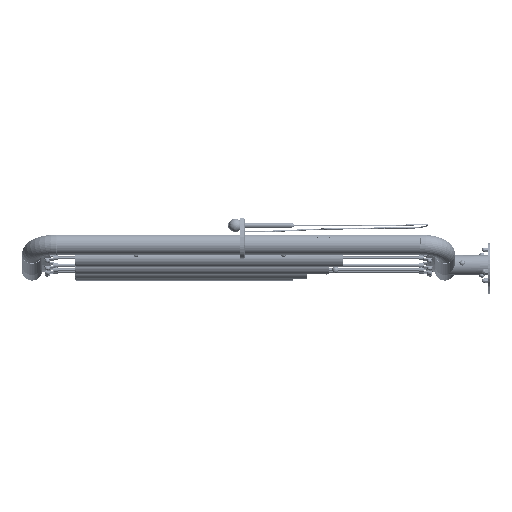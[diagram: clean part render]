
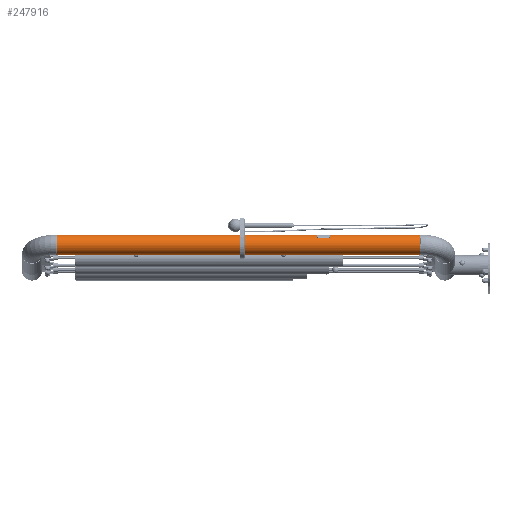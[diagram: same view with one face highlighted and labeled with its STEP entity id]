
A CAD part, left-side view. The second image highlights one B-rep face of the part: STEP entity #247916.
In plain terms, the highlighted cylindrical face has radius 38.05 mm (diameter 76.1 mm), a partial arc.
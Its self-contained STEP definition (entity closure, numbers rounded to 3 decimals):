
#6074 = CARTESIAN_POINT ( 'NONE',  ( -401.475, 1641., -666.129 ) ) ;
#13487 = VERTEX_POINT ( 'NONE', #44682 ) ;
#26786 = CIRCLE ( 'NONE', #133046, 38.05 ) ;
#32812 = CARTESIAN_POINT ( 'NONE',  ( -401.475, 1641., -704.179 ) ) ;
#44323 = CARTESIAN_POINT ( 'NONE',  ( -401.475, 266., -742.229 ) ) ;
#44682 = CARTESIAN_POINT ( 'NONE',  ( -401.475, 1641., -742.229 ) ) ;
#48342 = CIRCLE ( 'NONE', #320154, 38.05 ) ;
#68284 = VERTEX_POINT ( 'NONE', #247414 ) ;
#69632 = CYLINDRICAL_SURFACE ( 'NONE', #191658, 38.05 ) ;
#70765 = ORIENTED_EDGE ( 'NONE', *, *, #79698, .F. ) ;
#72383 = LINE ( 'NONE', #6074, #96653 ) ;
#79698 = EDGE_CURVE ( 'NONE', #13487, #68284, #48342, .T. ) ;
#81117 = ORIENTED_EDGE ( 'NONE', *, *, #263933, .T. ) ;
#86903 = EDGE_LOOP ( 'NONE', ( #128656, #70765, #81117, #168667 ) ) ;
#88840 = DIRECTION ( 'NONE',  ( 0., 1., 0. ) ) ;
#93436 = CARTESIAN_POINT ( 'NONE',  ( -401.475, 1641., -742.229 ) ) ;
#96653 = VECTOR ( 'NONE', #186294, 1000. ) ;
#122866 = DIRECTION ( 'NONE',  ( 0., 1., 0. ) ) ;
#128656 = ORIENTED_EDGE ( 'NONE', *, *, #221059, .F. ) ;
#133046 = AXIS2_PLACEMENT_3D ( 'NONE', #173530, #122866, #303227 ) ;
#146164 = FACE_OUTER_BOUND ( 'NONE', #86903, .T. ) ;
#168667 = ORIENTED_EDGE ( 'NONE', *, *, #281925, .T. ) ;
#173530 = CARTESIAN_POINT ( 'NONE',  ( -401.475, 266., -704.179 ) ) ;
#186294 = DIRECTION ( 'NONE',  ( 0., -1., 0. ) ) ;
#191658 = AXIS2_PLACEMENT_3D ( 'NONE', #32812, #208632, #210857 ) ;
#198117 = VECTOR ( 'NONE', #331283, 1000. ) ;
#208632 = DIRECTION ( 'NONE',  ( 0., -1., 0. ) ) ;
#210857 = DIRECTION ( 'NONE',  ( 0., 0., -1. ) ) ;
#215100 = CARTESIAN_POINT ( 'NONE',  ( -401.475, 1641., -704.179 ) ) ;
#217375 = DIRECTION ( 'NONE',  ( 0., 0., 1. ) ) ;
#221059 = EDGE_CURVE ( 'NONE', #68284, #332564, #72383, .T. ) ;
#247414 = CARTESIAN_POINT ( 'NONE',  ( -401.475, 1641., -666.129 ) ) ;
#247916 = ADVANCED_FACE ( 'NONE', ( #146164 ), #69632, .T. ) ;
#262899 = LINE ( 'NONE', #93436, #198117 ) ;
#263933 = EDGE_CURVE ( 'NONE', #13487, #331540, #262899, .T. ) ;
#281925 = EDGE_CURVE ( 'NONE', #331540, #332564, #26786, .T. ) ;
#303227 = DIRECTION ( 'NONE',  ( 0., 0., 1. ) ) ;
#320154 = AXIS2_PLACEMENT_3D ( 'NONE', #215100, #88840, #217375 ) ;
#329123 = CARTESIAN_POINT ( 'NONE',  ( -401.475, 266., -666.129 ) ) ;
#331283 = DIRECTION ( 'NONE',  ( 0., -1., 0. ) ) ;
#331540 = VERTEX_POINT ( 'NONE', #44323 ) ;
#332564 = VERTEX_POINT ( 'NONE', #329123 ) ;
